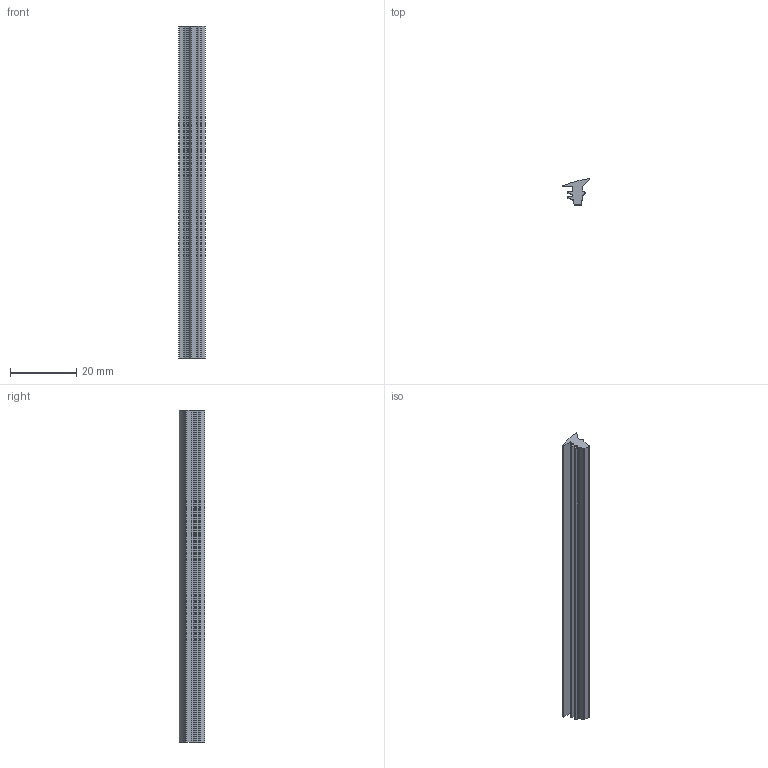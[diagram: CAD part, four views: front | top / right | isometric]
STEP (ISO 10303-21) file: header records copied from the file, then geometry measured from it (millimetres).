
FILE_DESCRIPTION (( 'STEP AP214' ), '1' );
FILE_NAME ('F50808.step', '2024-12-03T16:17:53', ( '' ), ( '' ), 'SwSTEP 2.0', 'SolidWorks 2023', '' );
FILE_SCHEMA (( 'AUTOMOTIVE_DESIGN' ));
Length unit declared in the file: millimetre
Products named in the file (1): F50808
Bounding box: 7.9 x 7.8 x 100 mm (x, y, z)
Volume: 2706.5 mm3; surface area: 3372.2 mm2
Topology: 1 solids, 1 shells, 41 faces, 117 edges, 78 vertices
Faces by surface type: plane 22, cylinder 19
Entity records: 1372 total; most frequent: DIRECTION 239, CARTESIAN_POINT 237, ORIENTED_EDGE 234, EDGE_CURVE 117, AXIS2_PLACEMENT_3D 80, VECTOR 79, LINE 79, VERTEX_POINT 78
